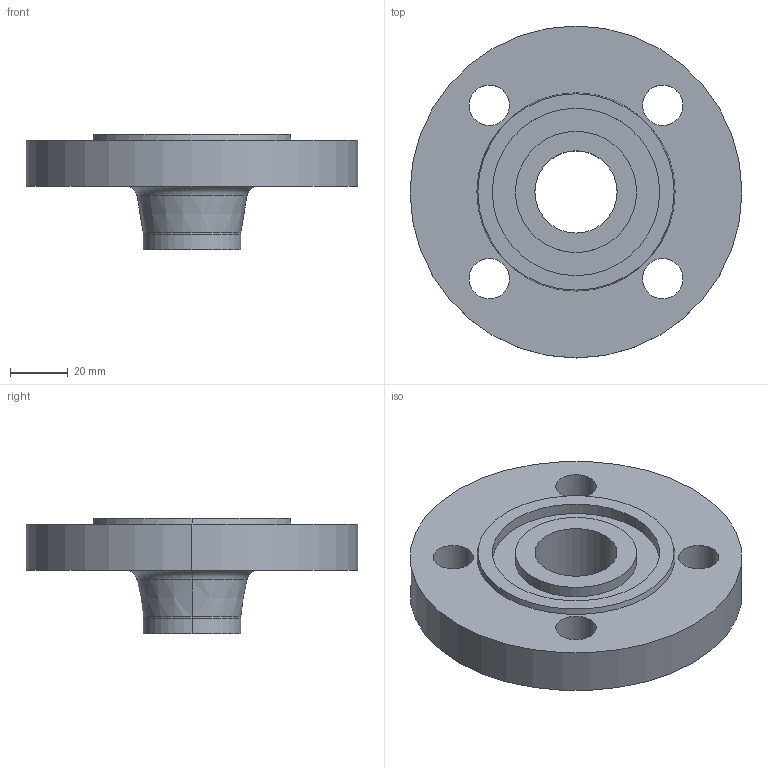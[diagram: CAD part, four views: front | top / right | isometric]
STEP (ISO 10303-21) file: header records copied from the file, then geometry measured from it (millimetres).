
FILE_DESCRIPTION (( 'STEP AP214' ), '1' );
FILE_NAME ('PN40 DN25 Type 11 - Type D Face.STEP', '2018-12-29T20:32:07', ( '' ), ( '' ), 'SwSTEP 2.0', 'SolidWorks 2019', '' );
FILE_SCHEMA (( 'AUTOMOTIVE_DESIGN' ));
Length unit declared in the file: millimetre
Products named in the file (1): PN40 DN25 Type 11 - Type D Face
Bounding box: 115 x 115 x 40 mm (x, y, z)
Volume: 155575.7 mm3; surface area: 34104.9 mm2
Topology: 1 solids, 1 shells, 32 faces, 72 edges, 46 vertices
Faces by surface type: cylinder 18, plane 6, torus 4, cone 4
Entity records: 972 total; most frequent: DIRECTION 188, CARTESIAN_POINT 151, ORIENTED_EDGE 144, AXIS2_PLACEMENT_3D 83, EDGE_CURVE 72, CIRCLE 50, VERTEX_POINT 46, EDGE_LOOP 46
